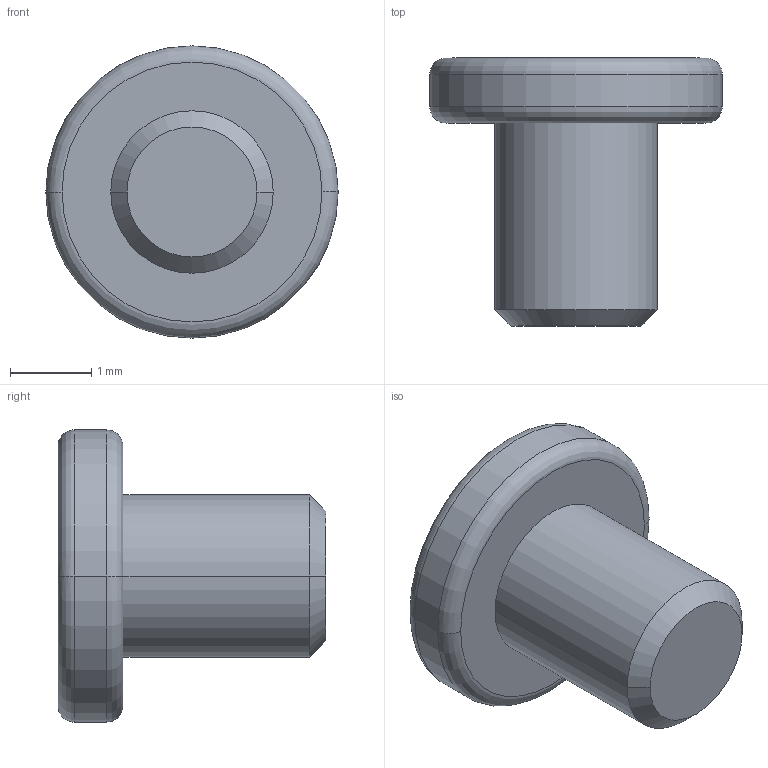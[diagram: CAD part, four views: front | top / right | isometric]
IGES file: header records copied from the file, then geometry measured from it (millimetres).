
Start section:  PTC IGES file: s20_20_thin_prt.igs
Global section: file name: s20_20_thin_prt.igs; native system: Pro/ENGINEER by Parametric Technology Corporation; preprocessor: 2000030; author: ECaille; organization: Unknown; date: 000803.092131; units: millimetre
Bounding box: 3.6 x 3.3 x 3.6 mm (x, y, z)
Surface area: 46.2 mm2 (no closed solid volume)
Topology: 0 solids, 0 shells, 38 faces, 269 edges, 363 vertices
Faces by surface type: revolution 22, bspline 16
